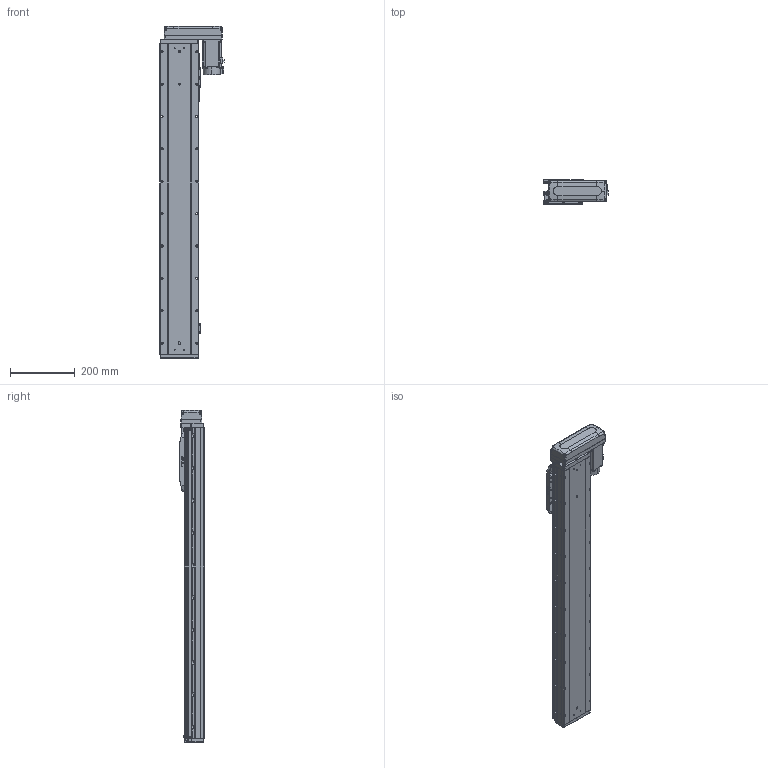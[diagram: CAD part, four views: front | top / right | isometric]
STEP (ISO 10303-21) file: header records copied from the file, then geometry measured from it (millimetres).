
FILE_DESCRIPTION (( 'STEP AP203' ), '1' );
FILE_NAME ('GTH12-750-BL-M40-C4.step', '2023-07-04T10:41:36', ( '微软用户' ), ( '微软中国' ), 'SwSTEP 2.0', 'SolidWorks 2020', '' );
FILE_SCHEMA (( 'CONFIG_CONTROL_DESIGN' ));
Length unit declared in the file: millimetre
Products named in the file (18): GTH120-003; GTH80-022; CTHA86-033_M40B; GTH120-006; GTH80-028; GTH120-027-1_GTH120-027-2; GTH120-004; GTH50-023; GTH12-750-BL-M40-C4; GTH120-013; GTH50-024; GBT 70.1-M3℅6; GBT96.1-2002 3×0.8; GBT 70.1-M5×16; BTH-M3X5X6; GTH120-001_750; GBT 70.3-M3℅8; hg-kn43j_-s100_
Assembly tree (59 placements, depth 2):
  GTH12-750-BL-M40-C4
    GTH120-001_750
    GTH120-003
    GTH120-006
    GTH120-004
    GTH120-013
    GBT 70.1-M3℅6  x14
    GBT 70.1-M5×16  x10
    GBT 70.3-M3℅8  x4
    GTH80-022
    GTH80-028  x2
    GTH50-023  x3
    GTH50-024  x3
    GBT96.1-2002 3×0.8  x6
    BTH-M3X5X6  x8
    hg-kn43j_-s100_
    CTHA86-033_M40B
    GTH120-027-1_GTH120-027-2
Bounding box: 199.8 x 76 x 1025.5 mm (x, y, z)
Volume: 7539315.7 mm3; surface area: 680115.2 mm2
Topology: 61 solids, 61 shells, 2474 faces, 5777 edges, 3545 vertices
Faces by surface type: plane 1270, cylinder 720, cone 296, torus 174, sphere 8, bspline 6
Entity records: 46531 total; most frequent: CARTESIAN_POINT 7882, DIRECTION 7713, ORIENTED_EDGE 7164, EDGE_CURVE 3582, AXIS2_PLACEMENT_3D 2697, LINE 2319, VECTOR 2319, VERTEX_POINT 2266
